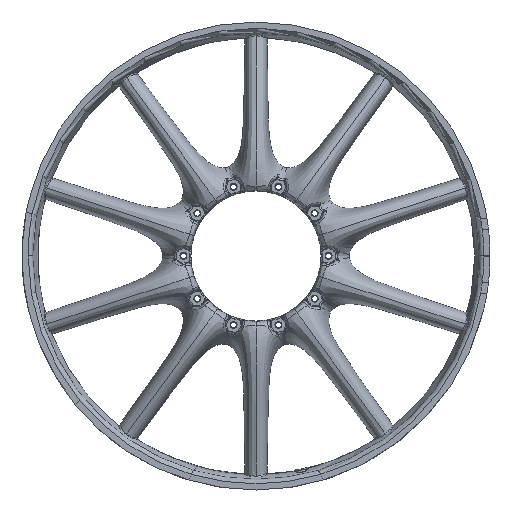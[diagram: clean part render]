
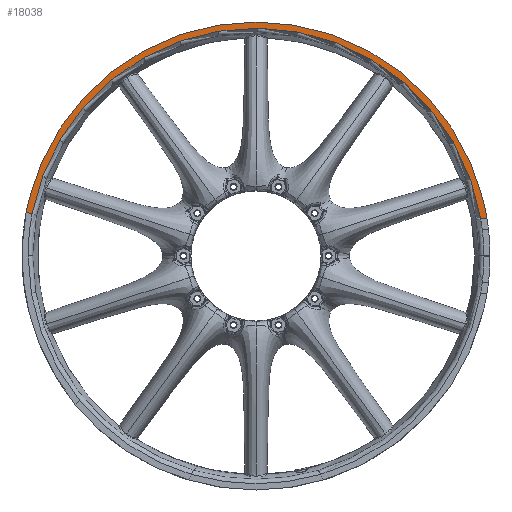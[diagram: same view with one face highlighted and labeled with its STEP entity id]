
A CAD part, top view. The second image highlights one B-rep face of the part: STEP entity #18038.
In plain terms, the highlighted planar face has unit normal (0, 0, 1).
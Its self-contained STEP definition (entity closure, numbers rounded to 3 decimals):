
#9507 = CARTESIAN_POINT ( 'NONE',  ( 203.446, 50., 3. ) ) ;
#10318 = CIRCLE ( 'NONE', #133613, 204. ) ;
#11289 = DIRECTION ( 'NONE',  ( 1., 0., 0. ) ) ;
#14337 = FACE_OUTER_BOUND ( 'NONE', #20708, .T. ) ;
#14754 = AXIS2_PLACEMENT_3D ( 'NONE', #29203, #16876, #134189 ) ;
#16876 = DIRECTION ( 'NONE',  ( 0., 0., 1. ) ) ;
#16947 = ORIENTED_EDGE ( 'NONE', *, *, #137522, .T. ) ;
#18038 = ADVANCED_FACE ( 'NONE', ( #14337 ), #36753, .T. ) ;
#20708 = EDGE_LOOP ( 'NONE', ( #73804, #115432, #135202, #16947, #136617, #21272 ) ) ;
#21272 = ORIENTED_EDGE ( 'NONE', *, *, #75723, .T. ) ;
#26619 = CIRCLE ( 'NONE', #61161, 209.5 ) ;
#26762 = LINE ( 'NONE', #121692, #37144 ) ;
#29203 = CARTESIAN_POINT ( 'NONE',  ( 0., 0., 3. ) ) ;
#29703 = VERTEX_POINT ( 'NONE', #78912 ) ;
#36753 = PLANE ( 'NONE',  #39546 ) ;
#37144 = VECTOR ( 'NONE', #131759, 1000. ) ;
#39546 = AXIS2_PLACEMENT_3D ( 'NONE', #142481, #83885, #11289 ) ;
#41212 = CARTESIAN_POINT ( 'NONE',  ( -203.446, 50., 3. ) ) ;
#41257 = VERTEX_POINT ( 'NONE', #62999 ) ;
#61161 = AXIS2_PLACEMENT_3D ( 'NONE', #123190, #123953, #89275 ) ;
#62999 = CARTESIAN_POINT ( 'NONE',  ( -200.46, 37.839, 3. ) ) ;
#63601 = LINE ( 'NONE', #112189, #69036 ) ;
#69036 = VECTOR ( 'NONE', #74443, 1000. ) ;
#73060 = VERTEX_POINT ( 'NONE', #104503 ) ;
#73804 = ORIENTED_EDGE ( 'NONE', *, *, #107041, .T. ) ;
#74443 = DIRECTION ( 'NONE',  ( 0.983, -0.185, 0. ) ) ;
#75698 = CIRCLE ( 'NONE', #139663, 209.5 ) ;
#75723 = EDGE_CURVE ( 'NONE', #29703, #41257, #63601, .T. ) ;
#78912 = CARTESIAN_POINT ( 'NONE',  ( -205.865, 38.859, 3. ) ) ;
#82383 = VERTEX_POINT ( 'NONE', #124325 ) ;
#83806 = CIRCLE ( 'NONE', #14754, 209.5 ) ;
#83885 = DIRECTION ( 'NONE',  ( 0., 0., 1. ) ) ;
#88798 = EDGE_CURVE ( 'NONE', #116895, #29703, #83806, .T. ) ;
#89275 = DIRECTION ( 'NONE',  ( 1., 0., 0. ) ) ;
#90145 = DIRECTION ( 'NONE',  ( 0., 0., 1. ) ) ;
#92395 = CARTESIAN_POINT ( 'NONE',  ( 0., 0., 3. ) ) ;
#93167 = DIRECTION ( 'NONE',  ( 1., 0., 0. ) ) ;
#94690 = EDGE_CURVE ( 'NONE', #73060, #82383, #26762, .T. ) ;
#104503 = CARTESIAN_POINT ( 'NONE',  ( 201.231, 33.5, 3. ) ) ;
#107041 = EDGE_CURVE ( 'NONE', #41257, #73060, #10318, .T. ) ;
#112189 = CARTESIAN_POINT ( 'NONE',  ( 36.453, -6.881, 3. ) ) ;
#115432 = ORIENTED_EDGE ( 'NONE', *, *, #94690, .T. ) ;
#116895 = VERTEX_POINT ( 'NONE', #41212 ) ;
#121081 = DIRECTION ( 'NONE',  ( 1., 0., 0. ) ) ;
#121692 = CARTESIAN_POINT ( 'NONE',  ( 0., 33.5, 3. ) ) ;
#123190 = CARTESIAN_POINT ( 'NONE',  ( 0., 0., 3. ) ) ;
#123953 = DIRECTION ( 'NONE',  ( 0., 0., 1. ) ) ;
#124325 = CARTESIAN_POINT ( 'NONE',  ( 206.804, 33.5, 3. ) ) ;
#131759 = DIRECTION ( 'NONE',  ( 1., 0., 0. ) ) ;
#132647 = CARTESIAN_POINT ( 'NONE',  ( 0., 0., 3. ) ) ;
#133613 = AXIS2_PLACEMENT_3D ( 'NONE', #132647, #146501, #121081 ) ;
#134189 = DIRECTION ( 'NONE',  ( 1., 0., 0. ) ) ;
#135202 = ORIENTED_EDGE ( 'NONE', *, *, #147823, .T. ) ;
#136617 = ORIENTED_EDGE ( 'NONE', *, *, #88798, .T. ) ;
#137522 = EDGE_CURVE ( 'NONE', #149755, #116895, #75698, .T. ) ;
#139663 = AXIS2_PLACEMENT_3D ( 'NONE', #92395, #90145, #93167 ) ;
#142481 = CARTESIAN_POINT ( 'NONE',  ( 0., -200., 3. ) ) ;
#146501 = DIRECTION ( 'NONE',  ( 0., 0., -1. ) ) ;
#147823 = EDGE_CURVE ( 'NONE', #82383, #149755, #26619, .T. ) ;
#149755 = VERTEX_POINT ( 'NONE', #9507 ) ;
